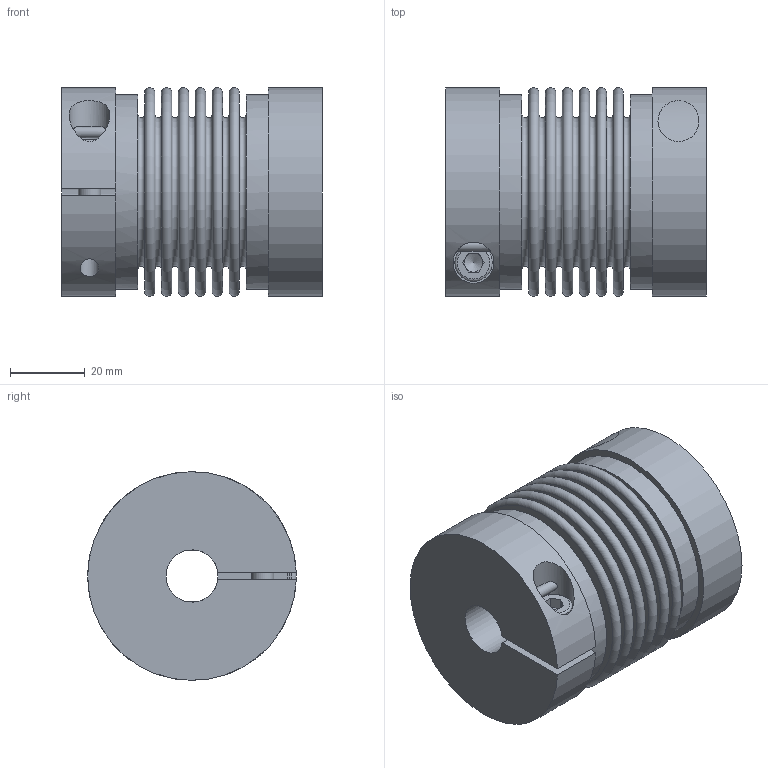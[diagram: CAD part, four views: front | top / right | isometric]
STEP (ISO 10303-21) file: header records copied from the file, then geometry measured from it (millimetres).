
FILE_DESCRIPTION( ( 'Unknown' ), '1' );
FILE_NAME( 'F:/JAKOB-STEP+IGES-Dateien/STEP-Dateien/KM/KM 35.stp', 'Unknown', ( 'Unknown' ), ( 'Unknown' ), 'PSStep 10.1', 'Unknown', ' ' );
FILE_SCHEMA( ( 'AUTOMOTIVE_DESIGN { 1 0 10303 214 1 1 1 1 }' ) );
Length unit declared in the file: millimetre
Products named in the file (1): KM   35
Bounding box: 70 x 56 x 56 mm (x, y, z)
Volume: 95131.4 mm3; surface area: 56059.7 mm2
Topology: 1 solids, 2 shells, 127 faces, 254 edges, 164 vertices
Faces by surface type: plane 74, torus 28, cylinder 23, cone 2
Full cylindrical faces by diameter (mm): 5 x2, 6 x2, 6.6 x2, 10 x2, 11 x2, 52.32 x2
Entity records: 5379 total; most frequent: CARTESIAN_POINT 1864, DIRECTION 552, ORIENTED_EDGE 396, AXIS2_PLACEMENT_3D 233, EDGE_LOOP 208, EDGE_CURVE 198, FACE_OUTER_BOUND 166, VERTEX_POINT 152
